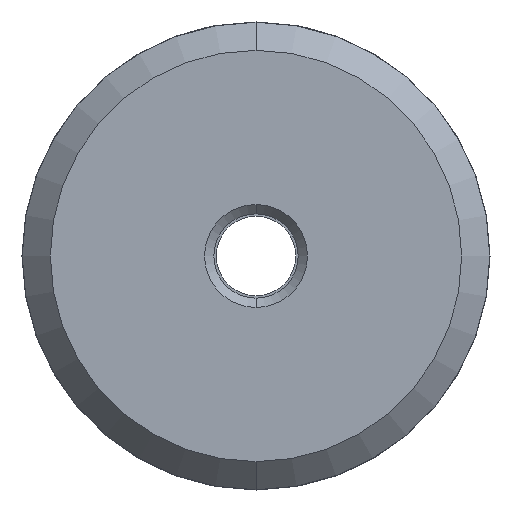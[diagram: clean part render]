
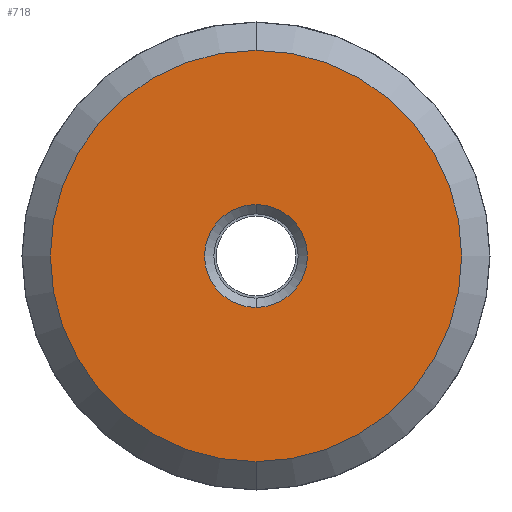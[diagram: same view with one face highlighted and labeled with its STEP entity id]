
A CAD part, front view. The second image highlights one B-rep face of the part: STEP entity #718.
In plain terms, the highlighted planar face has unit normal (0, -1, 0).
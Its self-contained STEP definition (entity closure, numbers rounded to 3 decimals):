
#614=CARTESIAN_POINT('Axis2P3D Location',(0.,0.,0.)) ;
#618=CARTESIAN_POINT('Vertex',(0.,0.,-21.975)) ;
#620=CARTESIAN_POINT('Vertex',(0.,0.,21.975)) ;
#645=CARTESIAN_POINT('Axis2P3D Location',(0.,0.,0.)) ;
#666=CARTESIAN_POINT('Vertex',(0.,0.,5.5)) ;
#673=CARTESIAN_POINT('Vertex',(0.,0.,-5.5)) ;
#676=CARTESIAN_POINT('Axis2P3D Location',(0.,0.,0.)) ;
#693=CARTESIAN_POINT('Axis2P3D Location',(0.,0.,0.)) ;
#705=CARTESIAN_POINT('Axis2P3D Location',(-14.625,0.,0.)) ;
#615=DIRECTION('Axis2P3D Direction',(0.,1.,0.)) ;
#646=DIRECTION('Axis2P3D Direction',(0.,1.,0.)) ;
#677=DIRECTION('Axis2P3D Direction',(0.,-1.,-0.)) ;
#694=DIRECTION('Axis2P3D Direction',(0.,-1.,-0.)) ;
#706=DIRECTION('Axis2P3D Direction',(0.,-1.,0.)) ;
#707=DIRECTION('Axis2P3D XDirection',(0.,0.,-1.)) ;
#616=AXIS2_PLACEMENT_3D('Circle Axis2P3D',#614,#615,$) ;
#647=AXIS2_PLACEMENT_3D('Circle Axis2P3D',#645,#646,$) ;
#678=AXIS2_PLACEMENT_3D('Circle Axis2P3D',#676,#677,$) ;
#695=AXIS2_PLACEMENT_3D('Circle Axis2P3D',#693,#694,$) ;
#708=AXIS2_PLACEMENT_3D('Plane Axis2P3D',#705,#706,#707) ;
#711=ORIENTED_EDGE('',*,*,#649,.T.) ;
#712=ORIENTED_EDGE('',*,*,#622,.T.) ;
#715=ORIENTED_EDGE('',*,*,#680,.F.) ;
#716=ORIENTED_EDGE('',*,*,#697,.F.) ;
#717=FACE_BOUND('',#714,.T.) ;
#718=ADVANCED_FACE('Rivoluzione1',(#713,#717),#709,.T.) ;
#617=CIRCLE('generated circle',#616,21.975) ;
#648=CIRCLE('generated circle',#647,21.975) ;
#679=CIRCLE('generated circle',#678,5.5) ;
#696=CIRCLE('generated circle',#695,5.5) ;
#622=EDGE_CURVE('',#619,#621,#617,.F.) ;
#649=EDGE_CURVE('',#621,#619,#648,.F.) ;
#680=EDGE_CURVE('',#674,#667,#679,.T.) ;
#697=EDGE_CURVE('',#667,#674,#696,.T.) ;
#710=EDGE_LOOP('',(#711,#712)) ;
#714=EDGE_LOOP('',(#715,#716)) ;
#713=FACE_OUTER_BOUND('',#710,.T.) ;
#709=PLANE('Plane',#708) ;
#619=VERTEX_POINT('',#618) ;
#621=VERTEX_POINT('',#620) ;
#667=VERTEX_POINT('',#666) ;
#674=VERTEX_POINT('',#673) ;
